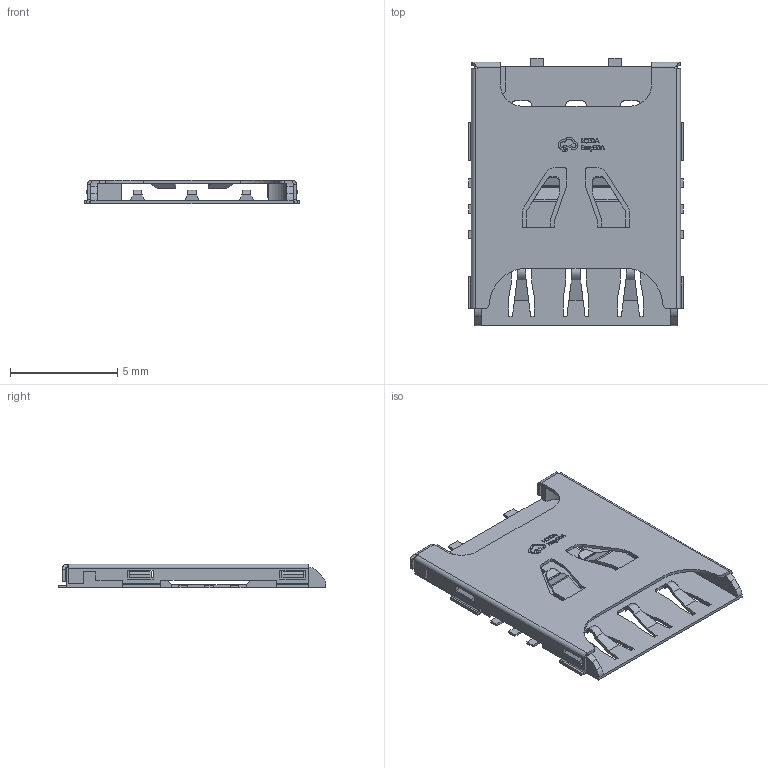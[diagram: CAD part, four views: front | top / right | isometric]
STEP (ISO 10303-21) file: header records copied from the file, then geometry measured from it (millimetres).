
FILE_DESCRIPTION (( 'STEP AP214' ), '1' );
FILE_NAME ('SIM-SMD_1042240820.step', '2022-07-12T15:19:54', ( '' ), ( '' ), 'SwSTEP 2.0', 'SolidWorks 2020', '' );
FILE_SCHEMA (( 'AUTOMOTIVE_DESIGN' ));
Length unit declared in the file: millimetre
Products named in the file (1): SIM-SMD_1042240820
Bounding box: 10.07 x 12.5 x 1.11 mm (x, y, z)
Volume: 34.5 mm3; surface area: 462.1 mm2
Topology: 3 solids, 3 shells, 679 faces, 1905 edges, 1254 vertices
Faces by surface type: plane 490, bspline 126, cylinder 63
Entity records: 25725 total; most frequent: CARTESIAN_POINT 6627, ORIENTED_EDGE 3810, DIRECTION 2813, EDGE_CURVE 1905, LINE 1493, VECTOR 1493, VERTEX_POINT 1254, EDGE_LOOP 731
